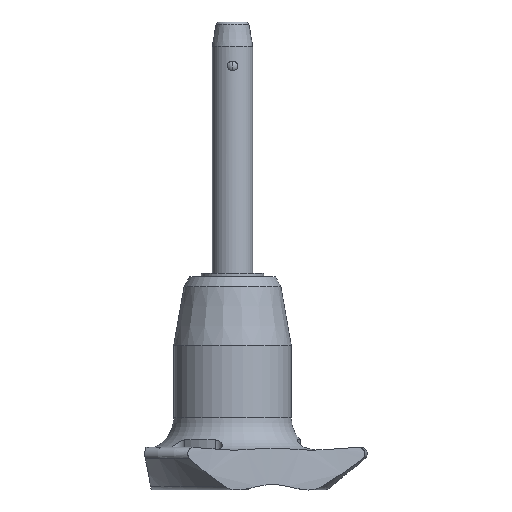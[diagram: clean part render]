
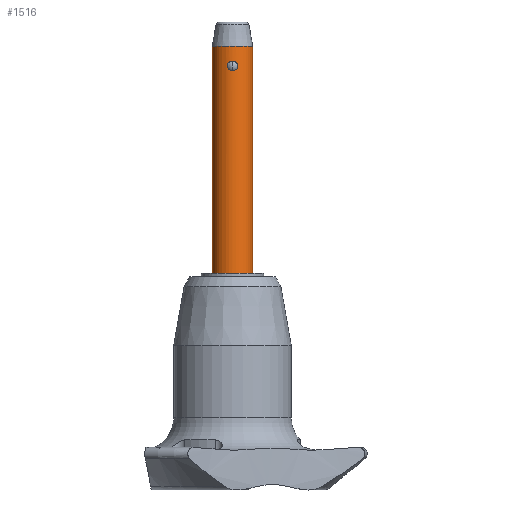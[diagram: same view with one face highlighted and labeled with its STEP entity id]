
A CAD part, front view. The second image highlights one B-rep face of the part: STEP entity #1516.
In plain terms, the highlighted cylindrical face has radius 2.5 mm (diameter 5 mm), a partial arc.
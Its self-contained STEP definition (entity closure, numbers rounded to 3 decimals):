
#38 = B_SPLINE_CURVE_WITH_KNOTS ( 'NONE', 3,
 ( #517, #687, #1509, #1523, #1333, #1136, #1748, #1722, #2353, #2587, #2339, #1935, #730, #1549 ),
 .UNSPECIFIED., .F., .F.,
 ( 4, 2, 2, 2, 2, 2, 4 ),
 ( 0., 0., 0.001, 0.001, 0.001, 0.001, 0.002 ),
 .UNSPECIFIED. ) ;
#89 = CARTESIAN_POINT ( 'NONE',  ( 2.5, 0., 3. ) ) ;
#145 = VERTEX_POINT ( 'NONE', #256 ) ;
#189 = LINE ( 'NONE', #1449, #1785 ) ;
#211 = FACE_OUTER_BOUND ( 'NONE', #2576, .T. ) ;
#245 = CARTESIAN_POINT ( 'NONE',  ( 0., 0., 3. ) ) ;
#256 = CARTESIAN_POINT ( 'NONE',  ( -2.5, 0., -25. ) ) ;
#327 = EDGE_CURVE ( 'NONE', #1802, #366, #38, .T. ) ;
#366 = VERTEX_POINT ( 'NONE', #1420 ) ;
#433 = CARTESIAN_POINT ( 'NONE',  ( 0.632, -2.419, 0.416 ) ) ;
#457 = CARTESIAN_POINT ( 'NONE',  ( 0.164, -2.5, 1.162 ) ) ;
#472 = EDGE_CURVE ( 'NONE', #1039, #1654, #189, .T. ) ;
#516 = VECTOR ( 'NONE', #882, 1000. ) ;
#517 = CARTESIAN_POINT ( 'NONE',  ( 0., -2.5, 1.162 ) ) ;
#521 = CARTESIAN_POINT ( 'NONE',  ( 0., -2.5, 1.162 ) ) ;
#600 = CARTESIAN_POINT ( 'NONE',  ( 0., 0., -25. ) ) ;
#627 = DIRECTION ( 'NONE',  ( 1., 0., 0. ) ) ;
#644 = EDGE_CURVE ( 'NONE', #1654, #931, #1570, .T. ) ;
#663 = LINE ( 'NONE', #1086, #516 ) ;
#687 = CARTESIAN_POINT ( 'NONE',  ( -0.164, -2.5, 1.162 ) ) ;
#730 = CARTESIAN_POINT ( 'NONE',  ( -0.162, -2.5, 0. ) ) ;
#761 = ORIENTED_EDGE ( 'NONE', *, *, #1114, .F. ) ;
#842 = DIRECTION ( 'NONE',  ( 0., 0., 1. ) ) ;
#844 = DIRECTION ( 'NONE',  ( 0., 0., -1. ) ) ;
#849 = CARTESIAN_POINT ( 'NONE',  ( 0.652, -2.414, 0.497 ) ) ;
#866 = DIRECTION ( 'NONE',  ( 0., 0., -1. ) ) ;
#882 = DIRECTION ( 'NONE',  ( 0., 0., 1. ) ) ;
#900 = ORIENTED_EDGE ( 'NONE', *, *, #327, .F. ) ;
#919 = EDGE_LOOP ( 'NONE', ( #900, #1544 ) ) ;
#926 = AXIS2_PLACEMENT_3D ( 'NONE', #1895, #866, #1922 ) ;
#931 = VERTEX_POINT ( 'NONE', #1601 ) ;
#1039 = VERTEX_POINT ( 'NONE', #2290 ) ;
#1086 = CARTESIAN_POINT ( 'NONE',  ( -2.5, 0., -25. ) ) ;
#1114 = EDGE_CURVE ( 'NONE', #1039, #145, #2573, .T. ) ;
#1136 = CARTESIAN_POINT ( 'NONE',  ( -0.632, -2.419, 0.744 ) ) ;
#1258 = CARTESIAN_POINT ( 'NONE',  ( 0.326, -2.482, 0.055 ) ) ;
#1271 = CARTESIAN_POINT ( 'NONE',  ( 0.561, -2.437, 0.273 ) ) ;
#1333 = CARTESIAN_POINT ( 'NONE',  ( -0.561, -2.436, 0.889 ) ) ;
#1420 = CARTESIAN_POINT ( 'NONE',  ( 0., -2.5, 0. ) ) ;
#1449 = CARTESIAN_POINT ( 'NONE',  ( 2.5, 0., -25. ) ) ;
#1455 = CARTESIAN_POINT ( 'NONE',  ( 0.511, -2.448, 0.952 ) ) ;
#1466 = CARTESIAN_POINT ( 'NONE',  ( 0.652, -2.413, 0.66 ) ) ;
#1487 = CARTESIAN_POINT ( 'NONE',  ( 0.509, -2.448, 0.208 ) ) ;
#1509 = CARTESIAN_POINT ( 'NONE',  ( -0.324, -2.482, 1.108 ) ) ;
#1516 = ADVANCED_FACE ( 'NONE', ( #211, #1651 ), #2486, .T. ) ;
#1523 = CARTESIAN_POINT ( 'NONE',  ( -0.51, -2.448, 0.953 ) ) ;
#1544 = ORIENTED_EDGE ( 'NONE', *, *, #2366, .F. ) ;
#1549 = CARTESIAN_POINT ( 'NONE',  ( 0., -2.5, 0. ) ) ;
#1570 = CIRCLE ( 'NONE', #2312, 2.5 ) ;
#1601 = CARTESIAN_POINT ( 'NONE',  ( -2.5, 0., 3. ) ) ;
#1651 = FACE_BOUND ( 'NONE', #919, .T. ) ;
#1654 = VERTEX_POINT ( 'NONE', #89 ) ;
#1722 = CARTESIAN_POINT ( 'NONE',  ( -0.652, -2.413, 0.501 ) ) ;
#1748 = CARTESIAN_POINT ( 'NONE',  ( -0.652, -2.414, 0.663 ) ) ;
#1785 = VECTOR ( 'NONE', #842, 1000. ) ;
#1802 = VERTEX_POINT ( 'NONE', #521 ) ;
#1812 = B_SPLINE_CURVE_WITH_KNOTS ( 'NONE', 3,
 ( #2087, #1867, #1258, #1487, #1271, #433, #849, #1466, #2308, #2485, #1455, #2534, #457, #2285 ),
 .UNSPECIFIED., .F., .F.,
 ( 4, 2, 2, 2, 2, 2, 4 ),
 ( 0.002, 0.002, 0.003, 0.003, 0.003, 0.003, 0.004 ),
 .UNSPECIFIED. ) ;
#1864 = DIRECTION ( 'NONE',  ( 1., 0., 0. ) ) ;
#1867 = CARTESIAN_POINT ( 'NONE',  ( 0.162, -2.5, 0. ) ) ;
#1872 = ORIENTED_EDGE ( 'NONE', *, *, #472, .T. ) ;
#1895 = CARTESIAN_POINT ( 'NONE',  ( 0., 0., -25. ) ) ;
#1922 = DIRECTION ( 'NONE',  ( 1., 0., 0. ) ) ;
#1935 = CARTESIAN_POINT ( 'NONE',  ( -0.326, -2.482, 0.054 ) ) ;
#1996 = ORIENTED_EDGE ( 'NONE', *, *, #2473, .F. ) ;
#2035 = DIRECTION ( 'NONE',  ( 0., 0., 1. ) ) ;
#2087 = CARTESIAN_POINT ( 'NONE',  ( 0., -2.5, 0. ) ) ;
#2229 = AXIS2_PLACEMENT_3D ( 'NONE', #600, #2035, #627 ) ;
#2285 = CARTESIAN_POINT ( 'NONE',  ( 0., -2.5, 1.162 ) ) ;
#2290 = CARTESIAN_POINT ( 'NONE',  ( 2.5, 0., -25. ) ) ;
#2308 = CARTESIAN_POINT ( 'NONE',  ( 0.633, -2.419, 0.742 ) ) ;
#2312 = AXIS2_PLACEMENT_3D ( 'NONE', #245, #844, #1864 ) ;
#2339 = CARTESIAN_POINT ( 'NONE',  ( -0.511, -2.448, 0.21 ) ) ;
#2353 = CARTESIAN_POINT ( 'NONE',  ( -0.633, -2.419, 0.42 ) ) ;
#2366 = EDGE_CURVE ( 'NONE', #366, #1802, #1812, .T. ) ;
#2400 = ORIENTED_EDGE ( 'NONE', *, *, #644, .T. ) ;
#2473 = EDGE_CURVE ( 'NONE', #145, #931, #663, .T. ) ;
#2485 = CARTESIAN_POINT ( 'NONE',  ( 0.562, -2.436, 0.887 ) ) ;
#2486 = CYLINDRICAL_SURFACE ( 'NONE', #2229, 2.5 ) ;
#2534 = CARTESIAN_POINT ( 'NONE',  ( 0.327, -2.482, 1.107 ) ) ;
#2573 = CIRCLE ( 'NONE', #926, 2.5 ) ;
#2576 = EDGE_LOOP ( 'NONE', ( #1996, #761, #1872, #2400 ) ) ;
#2587 = CARTESIAN_POINT ( 'NONE',  ( -0.562, -2.436, 0.274 ) ) ;
